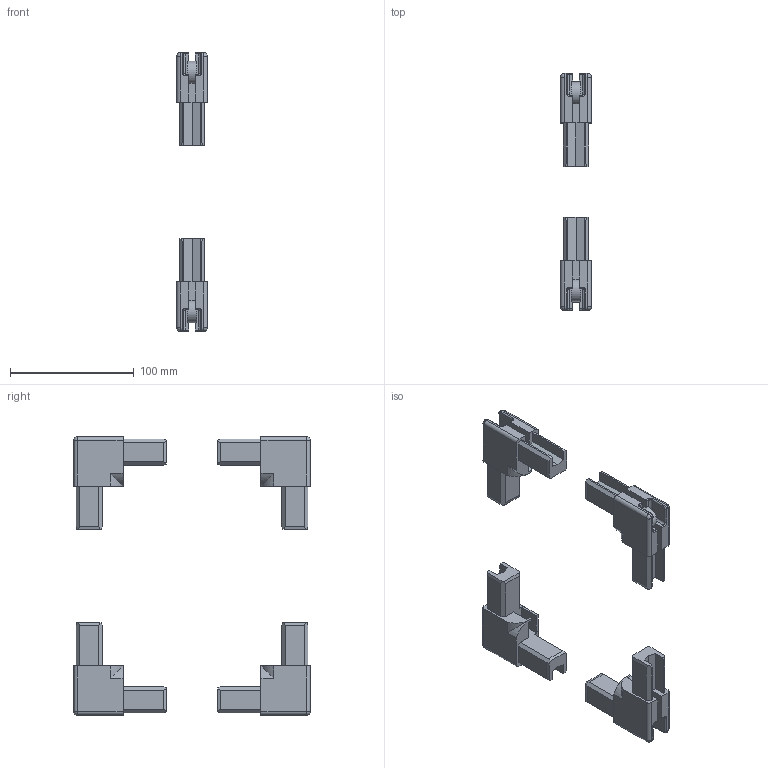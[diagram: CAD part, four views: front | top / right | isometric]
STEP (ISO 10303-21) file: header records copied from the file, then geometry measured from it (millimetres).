
FILE_DESCRIPTION (( 'STEP AP214' ), '1' );
FILE_NAME ('N15849 ENS.step', '2024-12-03T16:26:07', ( '' ), ( '' ), 'SwSTEP 2.0', 'SolidWorks 2023', '' );
FILE_SCHEMA (( 'AUTOMOTIVE_DESIGN' ));
Length unit declared in the file: millimetre
Products named in the file (2): N15849 ENS; N15849
Assembly tree (4 placements, depth 2):
  N15849 ENS
    N15849  x4
Bounding box: 25 x 191.37 x 225.2 mm (x, y, z)
Volume: 198672.3 mm3; surface area: 67599.4 mm2
Topology: 4 solids, 4 shells, 456 faces, 1228 edges, 772 vertices
Faces by surface type: plane 308, cylinder 108, torus 32, sphere 8
Entity records: 3579 total; most frequent: CARTESIAN_POINT 634, ORIENTED_EDGE 610, DIRECTION 601, EDGE_CURVE 305, LINE 241, VECTOR 241, VERTEX_POINT 193, AXIS2_PLACEMENT_3D 180
